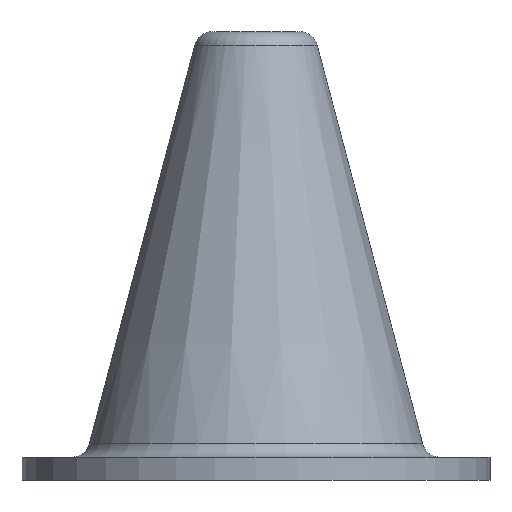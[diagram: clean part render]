
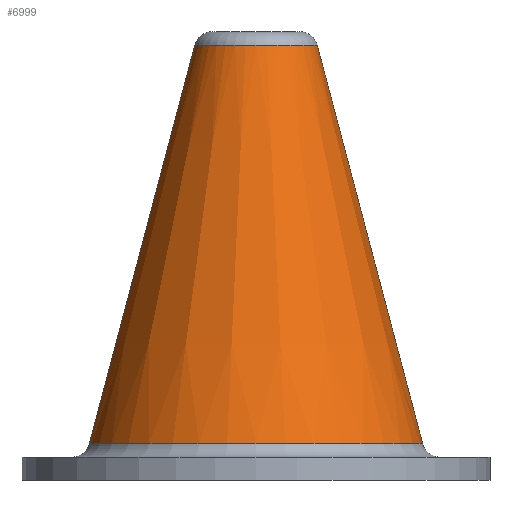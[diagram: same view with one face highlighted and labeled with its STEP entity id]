
A CAD part, front view. The second image highlights one B-rep face of the part: STEP entity #6999.
In plain terms, the highlighted conical face has half-angle 14.804 degrees and reference radius 3.481 mm.
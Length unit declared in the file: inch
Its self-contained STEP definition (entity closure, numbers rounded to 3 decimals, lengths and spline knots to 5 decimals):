
#797 = ORIENTED_EDGE ( 'NONE', *, *, #3436, .F. ) ;
#960 = AXIS2_PLACEMENT_3D ( 'NONE', #10840, #1170, #14545 ) ;
#1170 = DIRECTION ( 'NONE',  ( 0., 0., -1. ) ) ;
#1415 = CARTESIAN_POINT ( 'NONE',  ( 0.13705, 0., 0.03017 ) ) ;
#1912 = CARTESIAN_POINT ( 'NONE',  ( 0.13705, 0., 0.03017 ) ) ;
#2922 = VERTEX_POINT ( 'NONE', #11679 ) ;
#2999 = ORIENTED_EDGE ( 'NONE', *, *, #14023, .T. ) ;
#3436 = EDGE_CURVE ( 'NONE', #8672, #2922, #15115, .T. ) ;
#3755 = VECTOR ( 'NONE', #14106, 39.37008 ) ;
#4140 = AXIS2_PLACEMENT_3D ( 'NONE', #12150, #4741, #7035 ) ;
#4207 = EDGE_CURVE ( 'NONE', #13159, #8672, #12118, .T. ) ;
#4741 = DIRECTION ( 'NONE',  ( 0., 0., -1. ) ) ;
#5033 = DIRECTION ( 'NONE',  ( 0.256, 0., -0.967 ) ) ;
#5035 = VERTEX_POINT ( 'NONE', #7199 ) ;
#5398 = VECTOR ( 'NONE', #5033, 39.37008 ) ;
#6017 = AXIS2_PLACEMENT_3D ( 'NONE', #13498, #14660, #12222 ) ;
#6999 = ADVANCED_FACE ( 'NONE', ( #13032 ), #11270, .T. ) ;
#7035 = DIRECTION ( 'NONE',  ( -1., 0., 0. ) ) ;
#7199 = CARTESIAN_POINT ( 'NONE',  ( -0.05045, 0., 0.35783 ) ) ;
#7496 = ORIENTED_EDGE ( 'NONE', *, *, #4207, .F. ) ;
#8672 = VERTEX_POINT ( 'NONE', #1912 ) ;
#8859 = CIRCLE ( 'NONE', #6017, 0.05045 ) ;
#10237 = CARTESIAN_POINT ( 'NONE',  ( -0.13705, 0., 0.03017 ) ) ;
#10301 = EDGE_LOOP ( 'NONE', ( #7496, #2999, #11373, #797 ) ) ;
#10840 = CARTESIAN_POINT ( 'NONE',  ( 0., 0., 0.03017 ) ) ;
#11270 = CONICAL_SURFACE ( 'NONE', #4140, 0.13705, 0.258 ) ;
#11373 = ORIENTED_EDGE ( 'NONE', *, *, #12901, .T. ) ;
#11679 = CARTESIAN_POINT ( 'NONE',  ( -0.13705, 0., 0.03017 ) ) ;
#12118 = LINE ( 'NONE', #1415, #5398 ) ;
#12150 = CARTESIAN_POINT ( 'NONE',  ( 0., 0., 0.03017 ) ) ;
#12222 = DIRECTION ( 'NONE',  ( -1., 0., 0. ) ) ;
#12856 = LINE ( 'NONE', #10237, #3755 ) ;
#12901 = EDGE_CURVE ( 'NONE', #5035, #2922, #12856, .T. ) ;
#13032 = FACE_OUTER_BOUND ( 'NONE', #10301, .T. ) ;
#13159 = VERTEX_POINT ( 'NONE', #15498 ) ;
#13498 = CARTESIAN_POINT ( 'NONE',  ( 0., 0., 0.35783 ) ) ;
#14023 = EDGE_CURVE ( 'NONE', #13159, #5035, #8859, .T. ) ;
#14106 = DIRECTION ( 'NONE',  ( -0.256, 0., -0.967 ) ) ;
#14545 = DIRECTION ( 'NONE',  ( -1., 0., 0. ) ) ;
#14660 = DIRECTION ( 'NONE',  ( 0., 0., -1. ) ) ;
#15115 = CIRCLE ( 'NONE', #960, 0.13705 ) ;
#15498 = CARTESIAN_POINT ( 'NONE',  ( 0.05045, 0., 0.35783 ) ) ;
